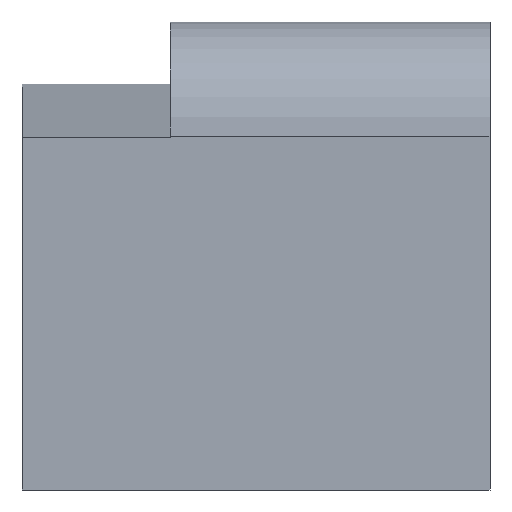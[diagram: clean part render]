
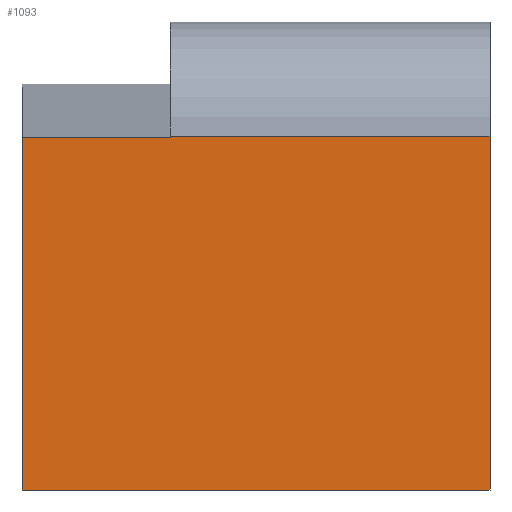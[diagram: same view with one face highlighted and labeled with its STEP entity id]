
A CAD part, front view. The second image highlights one B-rep face of the part: STEP entity #1093.
In plain terms, the highlighted planar face has unit normal (0, -1, 0).
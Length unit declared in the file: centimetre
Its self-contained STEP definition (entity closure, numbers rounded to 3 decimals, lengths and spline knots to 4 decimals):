
#18 = DIRECTION ( 'NONE',  ( 0., 0., 1. ) ) ;
#53 = EDGE_CURVE ( 'NONE', #726, #688, #599, .T. ) ;
#72 = CARTESIAN_POINT ( 'NONE',  ( 316.6441, 0., 753.2664 ) ) ;
#82 = CARTESIAN_POINT ( 'NONE',  ( 0., 0., 1000. ) ) ;
#106 = CARTESIAN_POINT ( 'NONE',  ( 0., 0., 755.5736 ) ) ;
#117 = VECTOR ( 'NONE', #881, 100. ) ;
#143 = DIRECTION ( 'NONE',  ( 1., 0., 0. ) ) ;
#146 = VECTOR ( 'NONE', #143, 100. ) ;
#148 = CARTESIAN_POINT ( 'NONE',  ( 0., 0., 1000. ) ) ;
#149 = CARTESIAN_POINT ( 'NONE',  ( 0., 0., 753.2664 ) ) ;
#171 = VERTEX_POINT ( 'NONE', #1166 ) ;
#176 = ORIENTED_EDGE ( 'NONE', *, *, #594, .T. ) ;
#192 = EDGE_LOOP ( 'NONE', ( #212, #992, #176, #1115, #901, #1024 ) ) ;
#194 = LINE ( 'NONE', #106, #293 ) ;
#210 = DIRECTION ( 'NONE',  ( 0., 1., 0. ) ) ;
#212 = ORIENTED_EDGE ( 'NONE', *, *, #540, .F. ) ;
#238 = LINE ( 'NONE', #1020, #301 ) ;
#276 = VERTEX_POINT ( 'NONE', #1150 ) ;
#293 = VECTOR ( 'NONE', #819, 100. ) ;
#301 = VECTOR ( 'NONE', #921, 100. ) ;
#316 = VECTOR ( 'NONE', #514, 100. ) ;
#423 = LINE ( 'NONE', #72, #117 ) ;
#426 = AXIS2_PLACEMENT_3D ( 'NONE', #82, #210, #18 ) ;
#449 = LINE ( 'NONE', #148, #316 ) ;
#488 = CARTESIAN_POINT ( 'NONE',  ( 316.6441, 0., 753.2664 ) ) ;
#514 = DIRECTION ( 'NONE',  ( 0., 0., -1. ) ) ;
#540 = EDGE_CURVE ( 'NONE', #744, #276, #423, .T. ) ;
#585 = LINE ( 'NONE', #933, #146 ) ;
#594 = EDGE_CURVE ( 'NONE', #748, #171, #449, .T. ) ;
#599 = LINE ( 'NONE', #955, #630 ) ;
#615 = DIRECTION ( 'NONE',  ( 0., 0., -1. ) ) ;
#630 = VECTOR ( 'NONE', #615, 100. ) ;
#688 = VERTEX_POINT ( 'NONE', #866 ) ;
#726 = VERTEX_POINT ( 'NONE', #876 ) ;
#744 = VERTEX_POINT ( 'NONE', #488 ) ;
#748 = VERTEX_POINT ( 'NONE', #149 ) ;
#819 = DIRECTION ( 'NONE',  ( -1., 0., 0. ) ) ;
#866 = CARTESIAN_POINT ( 'NONE',  ( 1000., 0., 0. ) ) ;
#876 = CARTESIAN_POINT ( 'NONE',  ( 1000., 0., 755.5736 ) ) ;
#877 = PLANE ( 'NONE',  #426 ) ;
#881 = DIRECTION ( 'NONE',  ( 0., 0., 1. ) ) ;
#896 = EDGE_CURVE ( 'NONE', #744, #748, #238, .T. ) ;
#901 = ORIENTED_EDGE ( 'NONE', *, *, #53, .F. ) ;
#921 = DIRECTION ( 'NONE',  ( -1., 0., 0. ) ) ;
#933 = CARTESIAN_POINT ( 'NONE',  ( 0., 0., 0. ) ) ;
#955 = CARTESIAN_POINT ( 'NONE',  ( 1000., 0., 1000. ) ) ;
#992 = ORIENTED_EDGE ( 'NONE', *, *, #896, .T. ) ;
#1020 = CARTESIAN_POINT ( 'NONE',  ( 316.6441, 0., 753.2664 ) ) ;
#1024 = ORIENTED_EDGE ( 'NONE', *, *, #1121, .T. ) ;
#1039 = EDGE_CURVE ( 'NONE', #171, #688, #585, .T. ) ;
#1093 = ADVANCED_FACE ( 'NONE', ( #1139 ), #877, .F. ) ;
#1115 = ORIENTED_EDGE ( 'NONE', *, *, #1039, .T. ) ;
#1121 = EDGE_CURVE ( 'NONE', #726, #276, #194, .T. ) ;
#1139 = FACE_OUTER_BOUND ( 'NONE', #192, .T. ) ;
#1150 = CARTESIAN_POINT ( 'NONE',  ( 316.6441, 0., 755.5736 ) ) ;
#1166 = CARTESIAN_POINT ( 'NONE',  ( 0., 0., 0. ) ) ;
